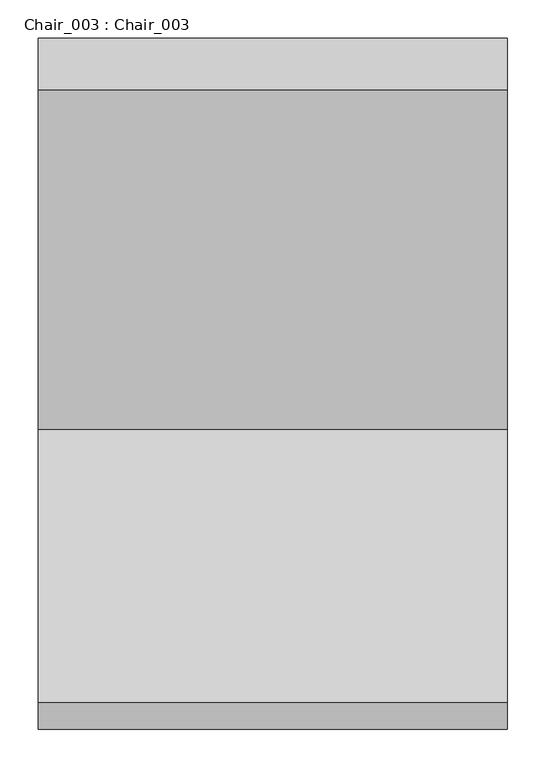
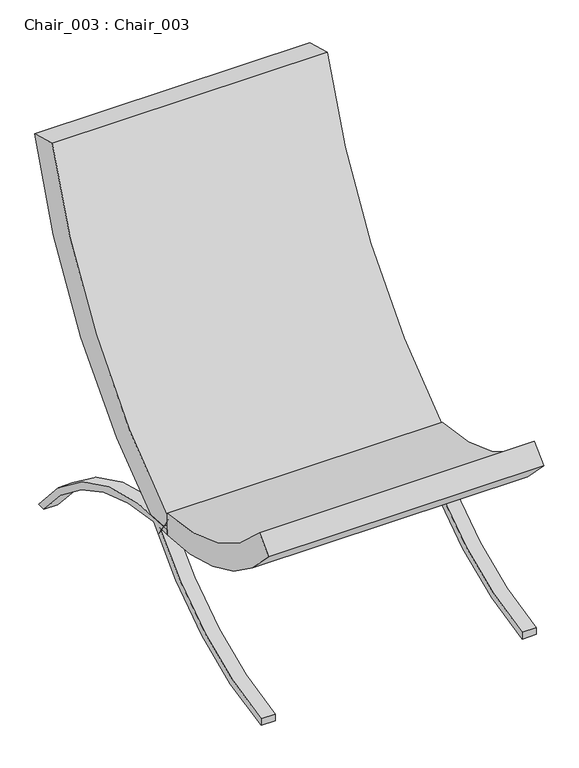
"""IFC4 building model written with IfcOpenShell, lengths in millimetres: furniture geometry, Chair_003 : Chair_003."""

from ifc_helpers import new_model, si_unit, point, frame, frame_2d, origin, place, context, project, spatial, polyline, circle_curve, trimmed, segment, composite_curve, outline, extrude, source, transform, mapped, element, save


def chair_003_chair_003_dcad3793(model_context):
    return source(origin(), model_context, "Body", "SweptSolid", [
        extrude(outline(composite_curve([segment(trimmed(circle_curve(frame_2d((7.8961016, -356.6808458)), 585.6624121), [point((26.795804, 228.6765341))], [point((-2.9457179, 228.8812054))], True, "CARTESIAN"), True, "CONTINUOUS"), segment(polyline([(-2.9457179, 228.8812054), (-2.9457179, 241.1106025)]), True, "CONTINUOUS"), segment(trimmed(circle_curve(frame_2d((17.8961016, -344.1808458)), 585.6624121), [point((-2.9457179, 241.1106025))], [point((491.7526266, 0.0))], False, "CARTESIAN"), True, "CONTINUOUS"), segment(polyline([(491.7526266, 0.0), (472.4165373, 0.0)]), True, "CONTINUOUS"), segment(trimmed(circle_curve(frame_2d((7.8961016, -356.6808458)), 585.6624121), [point((472.4165373, 0.0))], [point((49.195889, 227.5235606))], True, "CARTESIAN"), True, "CONTINUOUS"), segment(trimmed(circle_curve(frame_2d((-435.033504, 617.6248869)), 621.8176178), [point((49.195889, 227.5235606))], [point((-362.9457179, 0.0))], False, "CARTESIAN"), True, "CONTINUOUS"), segment(polyline([(-362.9457179, 0.0), (-362.9457179, 15.6124559)]), True, "CONTINUOUS"), segment(trimmed(circle_curve(frame_2d((-446.6756396, 631.7670225)), 621.8176178), [point((-362.9457179, 15.6124559))], [point((26.795804, 228.6765341))], True, "CARTESIAN"), True, "CONTINUOUS")], self_intersect=False)), frame((236.8083741, 0.0, 0.0), z_axis=(1.0, 0.0, 0.0), x_axis=(0.0, 1.0, 0.0)), (0.0, 0.0, 1.0), 30.8110596),
        extrude(outline(composite_curve([segment(trimmed(circle_curve(frame_2d((7.8961016, -356.6808458)), 585.6624121), [point((26.795804, 228.6765341))], [point((-2.9457179, 228.8812054))], True, "CARTESIAN"), True, "CONTINUOUS"), segment(polyline([(-2.9457179, 228.8812054), (-2.9457179, 241.1106025)]), True, "CONTINUOUS"), segment(trimmed(circle_curve(frame_2d((17.8961016, -344.1808458)), 585.6624121), [point((-2.9457179, 241.1106025))], [point((491.7526266, 0.0))], False, "CARTESIAN"), True, "CONTINUOUS"), segment(polyline([(491.7526266, 0.0), (472.4165373, 0.0)]), True, "CONTINUOUS"), segment(trimmed(circle_curve(frame_2d((7.8961016, -356.6808458)), 585.6624121), [point((472.4165373, 0.0))], [point((49.195889, 227.5235606))], True, "CARTESIAN"), True, "CONTINUOUS"), segment(trimmed(circle_curve(frame_2d((-435.033504, 617.6248869)), 621.8176178), [point((49.195889, 227.5235606))], [point((-362.9457179, 0.0))], False, "CARTESIAN"), True, "CONTINUOUS"), segment(polyline([(-362.9457179, 0.0), (-362.9457179, 15.6124559)]), True, "CONTINUOUS"), segment(trimmed(circle_curve(frame_2d((-446.6756396, 631.7670225)), 621.8176178), [point((-362.9457179, 15.6124559))], [point((26.795804, 228.6765341))], True, "CARTESIAN"), True, "CONTINUOUS")], self_intersect=False)), frame((-341.97991, 0.0, 0.0), z_axis=(1.0, 0.0, 0.0), x_axis=(0.0, 1.0, 0.0)), (0.0, 0.0, 1.0), 30.8110596),
        extrude(outline(composite_curve([segment(trimmed(circle_curve(frame_2d((21.6040157, 783.7273528)), 505.4726094), [point((-356.8420153, 448.6435418))], [point((-2.9457179, 278.8512596))], True, "CARTESIAN"), True, "CONTINUOUS"), segment(polyline([(-2.9457179, 278.8512596), (-2.9457179, 228.8812054)]), True, "CONTINUOUS"), segment(trimmed(circle_curve(frame_2d((-2.0235922, 734.3529737)), 505.4726094), [point((-2.9457179, 228.8812054))], [point((-392.3269687, 413.1585884))], False, "CARTESIAN"), True, "CONTINUOUS"), segment(polyline([(-392.3269687, 413.1585884), (-356.8420153, 448.6435418)]), True, "CONTINUOUS")], self_intersect=False)), frame((-341.97991, 0.0, 0.0), z_axis=(1.0, 0.0, 0.0), x_axis=(0.0, 1.0, 0.0)), (0.0, 0.0, 1.0), 609.5993438),
        extrude(outline(composite_curve([segment(trimmed(circle_curve(frame_2d((-595.5475698, 1165.0082509)), 1072.9738089), [point((-7.449605, 267.55988))], [point((438.4781843, 878.5409149))], True, "CARTESIAN"), True, "CONTINUOUS"), segment(polyline([(438.4781843, 878.5409149), (505.9451649, 859.8498077)]), True, "CONTINUOUS"), segment(trimmed(circle_curve(frame_2d((-532.7255198, 1128.9891832)), 1072.9738089), [point((505.9451649, 859.8498077))], [point((27.6606822, 213.9809322))], False, "CARTESIAN"), True, "CONTINUOUS"), segment(polyline([(27.6606822, 213.9809322), (-7.449605, 267.55988)]), True, "CONTINUOUS")], self_intersect=False)), frame((-341.97991, 0.0, 0.0), z_axis=(1.0, 0.0, 0.0), x_axis=(0.0, 1.0, 0.0)), (0.0, 0.0, 1.0), 609.5993438),
    ])


if __name__ == "__main__":
    model = new_model("IFC4")
    model_context = context("Model", 3, world=origin())
    ifc_project = project(units=[si_unit("LENGTHUNIT", "METRE", prefix="MILLI")], contexts=[model_context])
    site = spatial("IfcSite", under=ifc_project)
    building = spatial("IfcBuilding", under=site)
    placement = place(None, origin())
    chair_003_chair_003_shape = chair_003_chair_003_dcad3793(model_context)
    element("IfcFurniture", 1, ObjectType="Chair_003 : Chair_003", at=placement, inside=building, context=model_context, shape_type="MappedRepresentation", body=[
        mapped(chair_003_chair_003_shape, transform((0.0, 0.0, 0.0), x_axis=(1.0, 0.0, 0.0), y_axis=(0.0, 1.0, 0.0), z_axis=(0.0, 0.0, 1.0))),
    ])
    save(model, "model.ifc")
